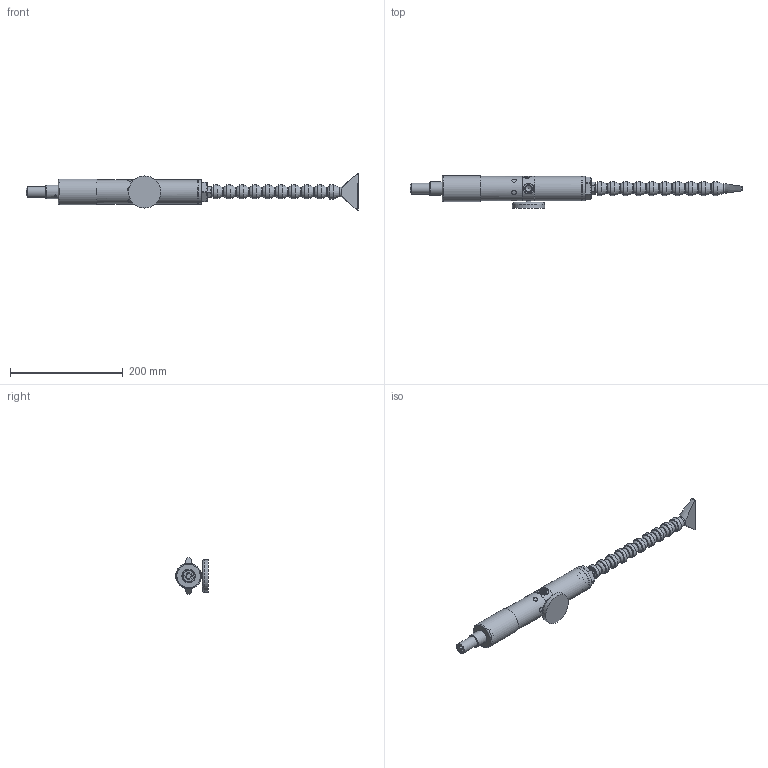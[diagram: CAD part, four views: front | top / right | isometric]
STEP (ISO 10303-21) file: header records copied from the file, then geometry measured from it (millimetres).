
FILE_DESCRIPTION (( 'STEP AP214' ), '1' );
FILE_NAME ('SIMP - CS_15 R Q1200-3.STEP', '2023-06-02T11:52:46', ( '' ), ( '' ), 'SwSTEP 2.0', 'SolidWorks 2021', '' );
FILE_SCHEMA (( 'AUTOMOTIVE_DESIGN' ));
Length unit declared in the file: millimetre
Products named in the file (1): SIMP - CS_15 R Q1200-3
Bounding box: 587.9 x 57.98 x 63.95 mm (x, y, z)
Volume: 467500.9 mm3; surface area: 107906.8 mm2
Topology: 17 solids, 22 shells, 1551 faces, 4078 edges, 2678 vertices
Faces by surface type: plane 921, bspline 312, cylinder 221, cone 58, torus 39
Full cylindrical faces by diameter (mm): 3.2 x1, 3.3 x1, 4 x1, 6 x1, 6.5 x1, 7 x1, 8 x6, 9 x1, 9.4 x1, 9.5 x1, 10 x2, 11.8 x7, 12.2 x1, 12.3 x9, 12.95 x1, 13 x1, 13.16 x1, 14.2 x1, 16.2 x1, 16.3 x9, 16.95 x1, 19 x2, 19.3 x1, 20.8 x1, 21 x9, 23.9 x1, 24.8 x1, 25 x9, 35.8 x1, 39.8 x2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
Entity records: 89158 total; most frequent: CARTESIAN_POINT 37083, ORIENTED_EDGE 7676, DIRECTION 6324, EDGE_CURVE 3838, VERTEX_POINT 2618, AXIS2_PLACEMENT_3D 2347, EDGE_LOOP 1860, FACE_OUTER_BOUND 1664
